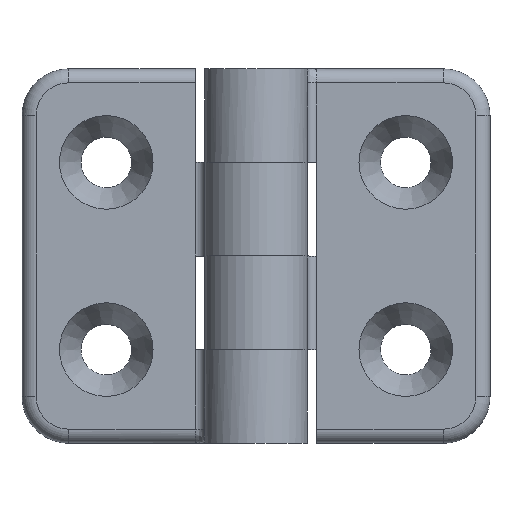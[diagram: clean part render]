
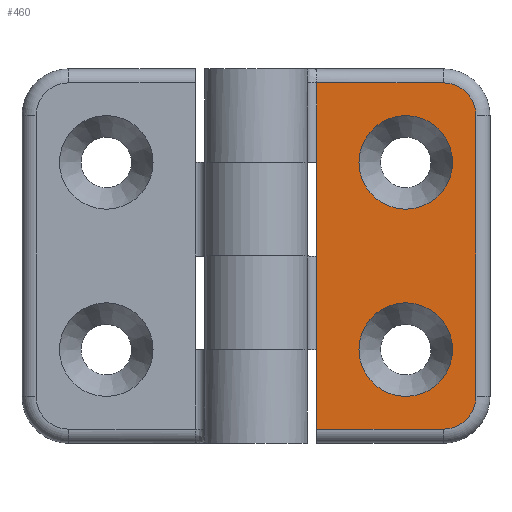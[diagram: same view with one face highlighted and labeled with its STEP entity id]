
A CAD part, top view. The second image highlights one B-rep face of the part: STEP entity #460.
In plain terms, the highlighted planar face has unit normal (0, 0, 1).
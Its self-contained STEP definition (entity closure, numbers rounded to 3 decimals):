
#31=FACE_BOUND('',#107,.T.);
#32=FACE_BOUND('',#108,.T.);
#42=PLANE('',#512);
#74=FACE_OUTER_BOUND('',#106,.T.);
#106=EDGE_LOOP('',(#410,#411,#412,#413,#414,#415,#416,#417,#418,#419,#420,
#421));
#107=EDGE_LOOP('',(#422));
#108=EDGE_LOOP('',(#423));
#110=LINE('',#666,#143);
#112=LINE('',#757,#145);
#115=LINE('',#767,#148);
#118=LINE('',#782,#151);
#120=LINE('',#794,#153);
#129=LINE('',#817,#162);
#136=LINE('',#845,#169);
#138=LINE('',#850,#171);
#140=LINE('',#853,#173);
#141=LINE('',#855,#174);
#143=VECTOR('',#525,10.);
#145=VECTOR('',#539,8.5);
#148=VECTOR('',#550,13.519);
#151=VECTOR('',#567,30.);
#153=VECTOR('',#581,13.5);
#162=VECTOR('',#606,8.5);
#169=VECTOR('',#637,0.019);
#171=VECTOR('',#641,10.);
#173=VECTOR('',#645,0.019);
#174=VECTOR('',#648,0.019);
#186=CIRCLE('',#480,3.5);
#190=CIRCLE('',#486,3.5);
#196=CIRCLE('',#501,5.);
#198=CIRCLE('',#505,5.);
#200=VERTEX_POINT('',#659);
#203=VERTEX_POINT('',#664);
#207=VERTEX_POINT('',#709);
#211=VERTEX_POINT('',#755);
#214=VERTEX_POINT('',#766);
#216=VERTEX_POINT('',#772);
#218=VERTEX_POINT('',#778);
#220=VERTEX_POINT('',#784);
#222=VERTEX_POINT('',#790);
#229=VERTEX_POINT('',#816);
#235=VERTEX_POINT('',#833);
#237=VERTEX_POINT('',#839);
#239=VERTEX_POINT('',#847);
#240=VERTEX_POINT('',#849);
#244=EDGE_CURVE('',#203,#200,#110,.T.);
#253=EDGE_CURVE('',#211,#207,#112,.T.);
#258=EDGE_CURVE('',#207,#214,#115,.T.);
#263=EDGE_CURVE('',#214,#216,#186,.T.);
#266=EDGE_CURVE('',#216,#218,#118,.T.);
#269=EDGE_CURVE('',#218,#220,#190,.T.);
#272=EDGE_CURVE('',#220,#222,#120,.T.);
#283=EDGE_CURVE('',#229,#222,#129,.T.);
#292=EDGE_CURVE('',#235,#235,#196,.T.);
#294=EDGE_CURVE('',#237,#237,#198,.T.);
#296=EDGE_CURVE('',#203,#229,#136,.T.);
#298=EDGE_CURVE('',#240,#239,#138,.T.);
#300=EDGE_CURVE('',#211,#240,#140,.T.);
#301=EDGE_CURVE('',#239,#200,#141,.T.);
#410=ORIENTED_EDGE('',*,*,#244,.F.);
#411=ORIENTED_EDGE('',*,*,#296,.T.);
#412=ORIENTED_EDGE('',*,*,#283,.T.);
#413=ORIENTED_EDGE('',*,*,#272,.F.);
#414=ORIENTED_EDGE('',*,*,#269,.F.);
#415=ORIENTED_EDGE('',*,*,#266,.F.);
#416=ORIENTED_EDGE('',*,*,#263,.F.);
#417=ORIENTED_EDGE('',*,*,#258,.F.);
#418=ORIENTED_EDGE('',*,*,#253,.F.);
#419=ORIENTED_EDGE('',*,*,#300,.T.);
#420=ORIENTED_EDGE('',*,*,#298,.T.);
#421=ORIENTED_EDGE('',*,*,#301,.T.);
#422=ORIENTED_EDGE('',*,*,#292,.T.);
#423=ORIENTED_EDGE('',*,*,#294,.T.);
#460=ADVANCED_FACE('',(#74,#31,#32),#42,.T.);
#480=AXIS2_PLACEMENT_3D('',#776,#560,#561);
#486=AXIS2_PLACEMENT_3D('',#788,#574,#575);
#501=AXIS2_PLACEMENT_3D('',#834,#621,#622);
#505=AXIS2_PLACEMENT_3D('',#840,#629,#630);
#512=AXIS2_PLACEMENT_3D('',#856,#649,#650);
#525=DIRECTION('',(0.,1.,0.));
#539=DIRECTION('',(0.,1.,0.));
#550=DIRECTION('',(1.,0.,0.));
#560=DIRECTION('center_axis',(0.,0.,-1.));
#561=DIRECTION('ref_axis',(0.707,0.707,0.));
#567=DIRECTION('',(0.,-1.,0.));
#574=DIRECTION('center_axis',(0.,0.,-1.));
#575=DIRECTION('ref_axis',(0.707,-0.707,0.));
#581=DIRECTION('',(-1.,0.,0.));
#606=DIRECTION('',(0.,-1.,0.));
#621=DIRECTION('center_axis',(0.,0.,-1.));
#622=DIRECTION('ref_axis',(1.,0.,0.));
#629=DIRECTION('center_axis',(0.,0.,-1.));
#630=DIRECTION('ref_axis',(1.,0.,0.));
#637=DIRECTION('',(1.,0.,0.));
#641=DIRECTION('',(0.,-1.,0.));
#645=DIRECTION('',(1.,0.,0.));
#648=DIRECTION('',(-1.,0.,0.));
#649=DIRECTION('center_axis',(0.,0.,1.));
#650=DIRECTION('ref_axis',(1.,0.,0.));
#659=CARTESIAN_POINT('',(6.481,20.,5.));
#664=CARTESIAN_POINT('',(6.481,10.,5.));
#666=CARTESIAN_POINT('',(6.481,0.,5.));
#709=CARTESIAN_POINT('',(6.481,38.5,5.));
#755=CARTESIAN_POINT('',(6.481,30.,5.));
#757=CARTESIAN_POINT('',(6.481,0.,5.));
#766=CARTESIAN_POINT('',(20.,38.5,5.));
#767=CARTESIAN_POINT('',(7.89,38.5,5.));
#772=CARTESIAN_POINT('',(23.5,35.,5.));
#776=CARTESIAN_POINT('Origin',(20.,35.,5.));
#778=CARTESIAN_POINT('',(23.5,5.,5.));
#782=CARTESIAN_POINT('',(23.5,0.,5.));
#784=CARTESIAN_POINT('',(20.,1.5,5.));
#788=CARTESIAN_POINT('Origin',(20.,5.,5.));
#790=CARTESIAN_POINT('',(6.5,1.5,5.));
#794=CARTESIAN_POINT('',(7.89,1.5,5.));
#816=CARTESIAN_POINT('',(6.5,10.,5.));
#817=CARTESIAN_POINT('',(6.5,15.,5.));
#833=CARTESIAN_POINT('',(21.,30.,5.));
#834=CARTESIAN_POINT('Origin',(16.,30.,5.));
#839=CARTESIAN_POINT('',(21.,10.,5.));
#840=CARTESIAN_POINT('Origin',(16.,10.,5.));
#845=CARTESIAN_POINT('',(5.989,10.,5.));
#847=CARTESIAN_POINT('',(6.5,20.,5.));
#849=CARTESIAN_POINT('',(6.5,30.,5.));
#850=CARTESIAN_POINT('',(6.5,15.,5.));
#853=CARTESIAN_POINT('',(-0.011,30.,5.));
#855=CARTESIAN_POINT('',(-0.011,20.,5.));
#856=CARTESIAN_POINT('Origin',(5.477,0.,5.));
